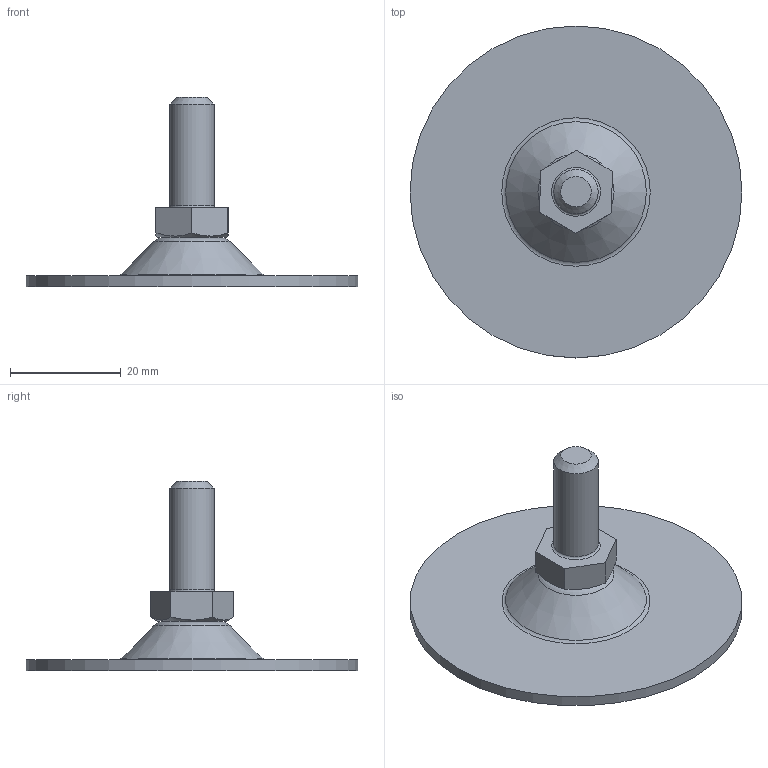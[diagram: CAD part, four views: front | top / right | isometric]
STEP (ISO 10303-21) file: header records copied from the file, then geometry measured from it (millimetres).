
FILE_DESCRIPTION(('STEP AP203'), '1');
FILE_NAME('A00050.1060816', '', ('UNSPECIFIED'), ('UNSPECIFIED'), 'C3D Converter', 'C3D Toolkit', '');
FILE_SCHEMA(('CONFIG_CONTROL_DESIGN'));
Length unit declared in the file: millimetre
Products named in the file (4): A00050.1060820; A00050.1160
Assembly tree (3 placements, depth 2):
  A00050.1060820
    A00050.1160
    (unnamed)
    (unnamed)
Bounding box: 60 x 60 x 34.26 mm (x, y, z)
Volume: 7745.9 mm3; surface area: 7765.6 mm2
Topology: 3 solids, 3 shells, 58 faces, 130 edges, 82 vertices
Faces by surface type: plane 28, torus 8, bspline 8, cone 7, cylinder 6, sphere 1
Full cylindrical faces by diameter (mm): 3.3 x1, 4 x1, 4.5 x1, 8 x2, 60 x1
Entity records: 2171 total; most frequent: CARTESIAN_POINT 784, DIRECTION 242, ORIENTED_EDGE 214, EDGE_CURVE 107, AXIS2_PLACEMENT_3D 95, EDGE_LOOP 86, VERTEX_POINT 81, ADVANCED_FACE 58
